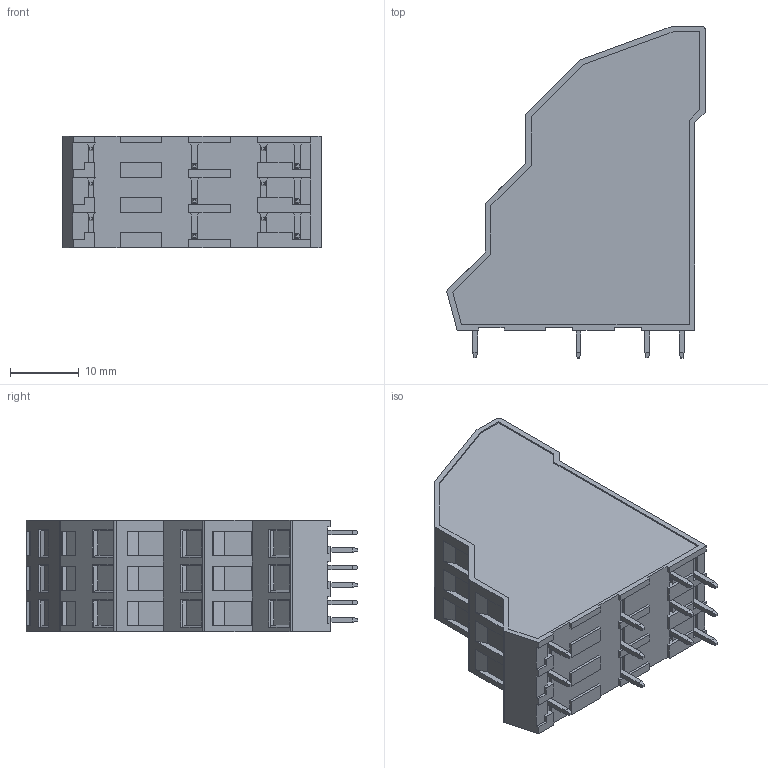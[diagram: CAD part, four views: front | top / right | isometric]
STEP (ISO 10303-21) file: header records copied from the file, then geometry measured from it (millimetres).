
FILE_DESCRIPTION((''),'2;1');
FILE_NAME('HS0330810000G_SW0001','2019-06-05T',('zhenbing.lai'),(''),'CREO PARAMETRIC BY PTC INC, 2016260','CREO PARAMETRIC BY PTC INC, 2016260','');
FILE_SCHEMA(('CONFIG_CONTROL_DESIGN'));
Length unit declared in the file: millimetre
Products named in the file (1): HS0330810000G_SW0001
Bounding box: 37.5 x 48.2 x 16.24 mm (x, y, z)
Volume: 18202.8 mm3; surface area: 5327.3 mm2
Topology: 1 solids, 10 shells, 515 faces, 1341 edges, 877 vertices
Faces by surface type: plane 480, cylinder 32, cone 3
Entity records: 15493 total; most frequent: CARTESIAN_POINT 2793, ORIENTED_EDGE 2682, DIRECTION 2434, EDGE_CURVE 1341, VECTOR 1244, LINE 1244, VERTEX_POINT 877, AXIS2_PLACEMENT_3D 595
